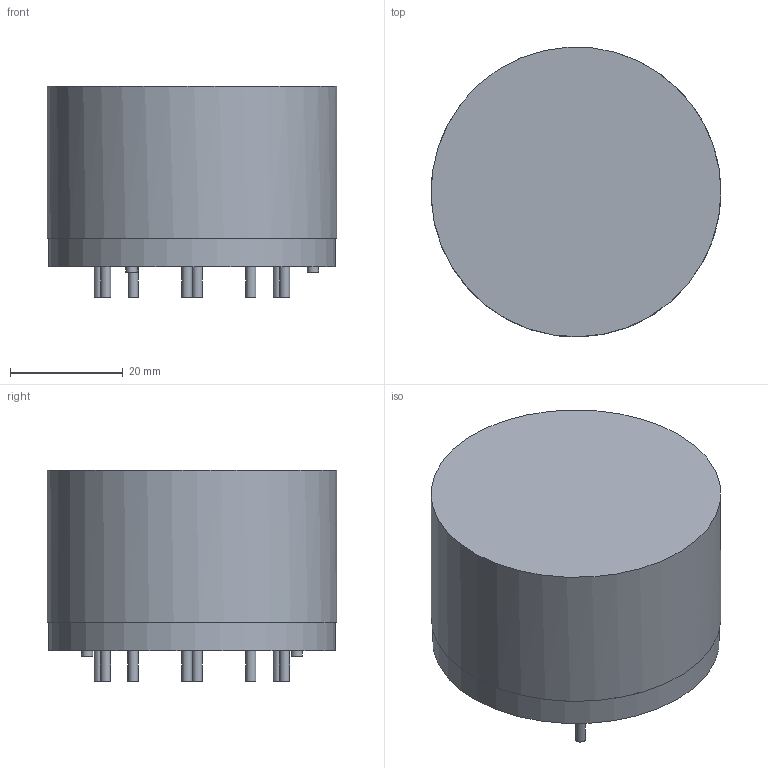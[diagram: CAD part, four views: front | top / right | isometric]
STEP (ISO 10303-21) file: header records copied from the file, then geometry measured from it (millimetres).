
FILE_DESCRIPTION(/* description */ (''),/* implementation_level */ '2;1');
FILE_NAME(/* name */ 'F:\2016年工作\2016年产品图纸\VAC\X2\4EA754C1\X0\3D模型\产品3D模型\6123-X401\6123-X401 3D model.stp',/* time_stamp */ '2016-06-24T15:33:59+08:00',/* author */ ('CN000560'),/* organization */ (''),/* preprocessor_version */ 'ST-DEVELOPER v16.1',/* originating_system */ 'Autodesk Inventor 2016',/* authorisation */ '');
FILE_SCHEMA (('AUTOMOTIVE_DESIGN { 1 0 10303 214 3 1 1 }'));
Length unit declared in the file: millimetre
Products named in the file (1): 6123-X401 3D model
Bounding box: 51.49 x 51.47 x 37.5 mm (x, y, z)
Volume: 66566.3 mm3; surface area: 9610.1 mm2
Topology: 1 solids, 1 shells, 28 faces, 43 edges, 29 vertices
Faces by surface type: cylinder 14, plane 14
Full cylindrical faces by diameter (mm): 1.8 x8, 2 x3, 51.5 x1
Entity records: 598 total; most frequent: DIRECTION 116, CARTESIAN_POINT 87, ORIENTED_EDGE 60, AXIS2_PLACEMENT_3D 57, EDGE_LOOP 52, EDGE_CURVE 30, FACE_OUTER_BOUND 28, CIRCLE 28
